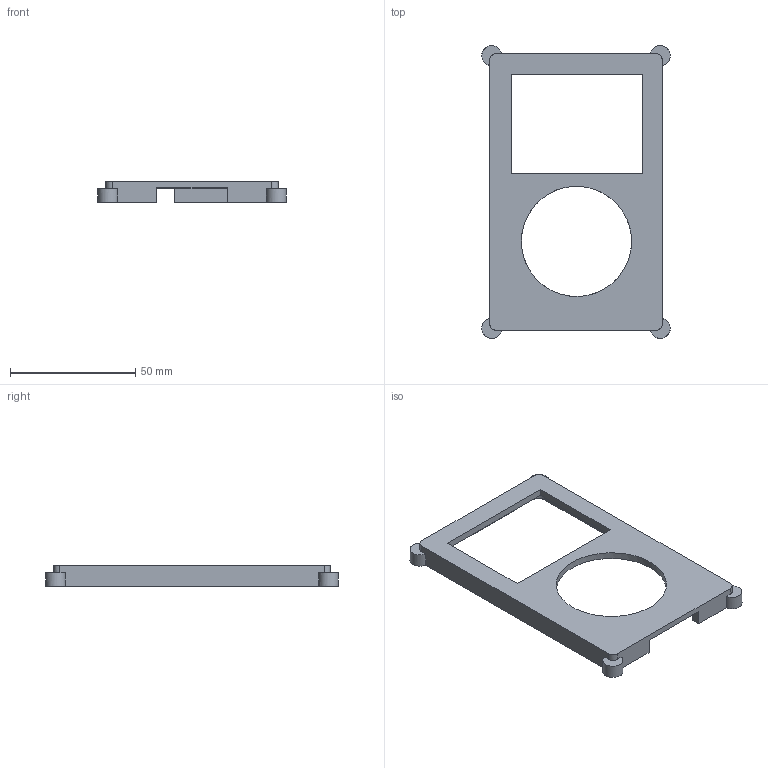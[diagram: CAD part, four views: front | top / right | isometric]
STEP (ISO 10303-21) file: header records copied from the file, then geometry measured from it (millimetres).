
FILE_DESCRIPTION(('SolidCraft model'),'2;1');
FILE_NAME('IPodCaseFront.step','',(''),(''),'SolidCraft','SolidCraft','');
FILE_SCHEMA(('AP242_MANAGED_MODEL_BASED_3D_ENGINEERING_MIM_LF { 1 0 10303 442 1 1 4 }'));
Length unit declared in the file: millimetre
Products named in the file (1): IPodCaseFront
Bounding box: 75.26 x 116.95 x 8.35 mm (x, y, z)
Volume: 16775.6 mm3; surface area: 13761.4 mm2
Topology: 1 solids, 1 shells, 76 faces, 224 edges, 154 vertices
Faces by surface type: plane 63, cylinder 13
Full cylindrical faces by diameter (mm): 44 x1
Entity records: 2061 total; most frequent: ORIENTED_EDGE 448, CARTESIAN_POINT 400, EDGE_CURVE 224, LINE 184, VERTEX_POINT 154, DIRECTION 125, VECTOR 113, EDGE_LOOP 84
